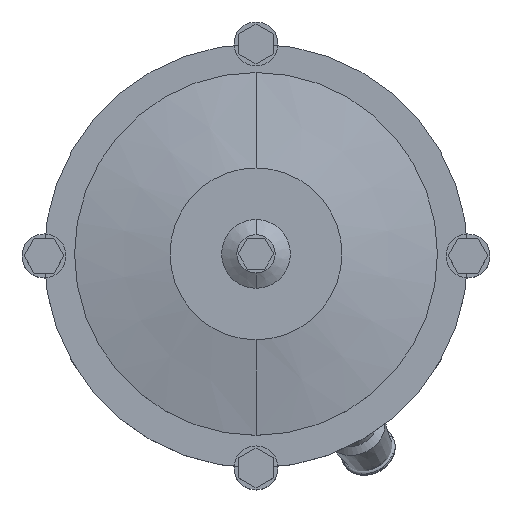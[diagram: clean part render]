
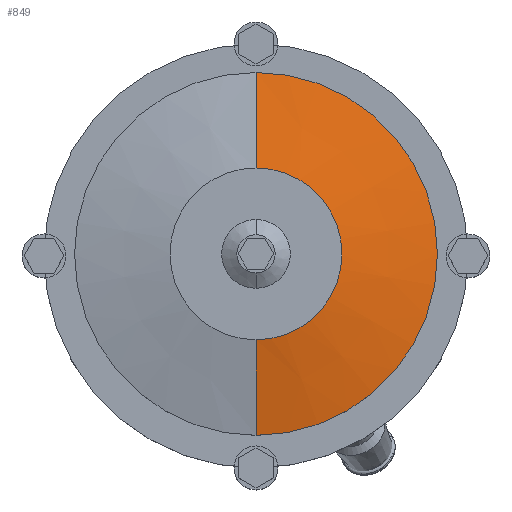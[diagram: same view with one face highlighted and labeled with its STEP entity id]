
A CAD part, top view. The second image highlights one B-rep face of the part: STEP entity #849.
In plain terms, the highlighted conical face has half-angle 78.69 degrees and reference radius 70 mm.
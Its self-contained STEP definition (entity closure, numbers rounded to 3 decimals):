
#849=ADVANCED_FACE('',(#1573),#1574,.T.);
#1573=FACE_OUTER_BOUND('',#2443,.T.);
#1574=CONICAL_SURFACE('',#2444,70.0,1.373);
#2443=EDGE_LOOP('',(#3615,#3616,#3617,#3618));
#2444=AXIS2_PLACEMENT_3D('',#3619,#3620,#3621);
#3615=ORIENTED_EDGE('',*,*,#4831,.F.);
#3616=ORIENTED_EDGE('',*,*,#4571,.F.);
#3617=ORIENTED_EDGE('',*,*,#4832,.F.);
#3618=ORIENTED_EDGE('',*,*,#4762,.F.);
#3619=CARTESIAN_POINT('',(0.0,0.,735.0));
#3620=DIRECTION('',(-0.0,0.,-1.0));
#3621=DIRECTION('',(0.0,-1.0,0.));
#4571=EDGE_CURVE('',#5327,#5326,#5329,.T.);
#4762=EDGE_CURVE('',#5609,#5610,#5611,.T.);
#4831=EDGE_CURVE('',#5326,#5609,#5698,.T.);
#4832=EDGE_CURVE('',#5610,#5327,#5699,.T.);
#5326=VERTEX_POINT('',#6299);
#5327=VERTEX_POINT('',#6300);
#5329=CIRCLE('',#6302,95.0);
#5609=VERTEX_POINT('',#6664);
#5610=VERTEX_POINT('',#6665);
#5611=CIRCLE('',#6666,45.0);
#5698=LINE('',#6778,#6779);
#5699=LINE('',#6780,#6781);
#6299=CARTESIAN_POINT('',(0.0,-95.0,730.0));
#6300=CARTESIAN_POINT('',(0.,95.0,730.0));
#6302=AXIS2_PLACEMENT_3D('',#7293,#7294,#7295);
#6664=CARTESIAN_POINT('',(0.0,-45.0,740.0));
#6665=CARTESIAN_POINT('',(0.,45.0,740.0));
#6666=AXIS2_PLACEMENT_3D('',#7513,#7514,#7515);
#6778=CARTESIAN_POINT('',(0.,-70.0,735.0));
#6779=VECTOR('',#7595,1.0);
#6780=CARTESIAN_POINT('',(0.,70.0,735.0));
#6781=VECTOR('',#7596,1.0);
#7293=CARTESIAN_POINT('',(0.0,0.0,730.0));
#7294=DIRECTION('',(0.0,0.,-1.0));
#7295=DIRECTION('',(0.0,-1.0,0.));
#7513=CARTESIAN_POINT('',(0.0,0.,740.0));
#7514=DIRECTION('',(0.0,0.,1.0));
#7515=DIRECTION('',(0.0,-1.0,0.));
#7595=DIRECTION('',(0.,0.981,0.196));
#7596=DIRECTION('',(0.,0.981,-0.196));
